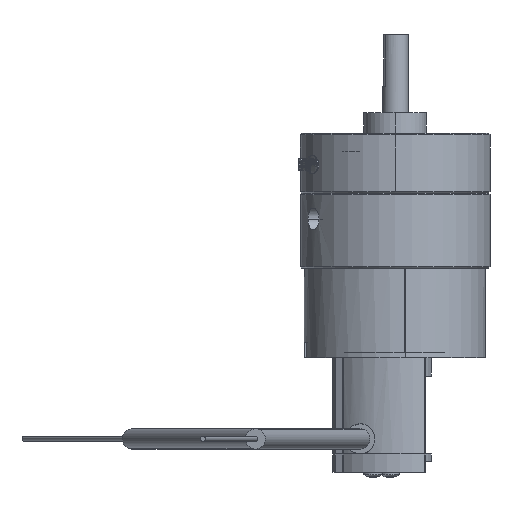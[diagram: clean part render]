
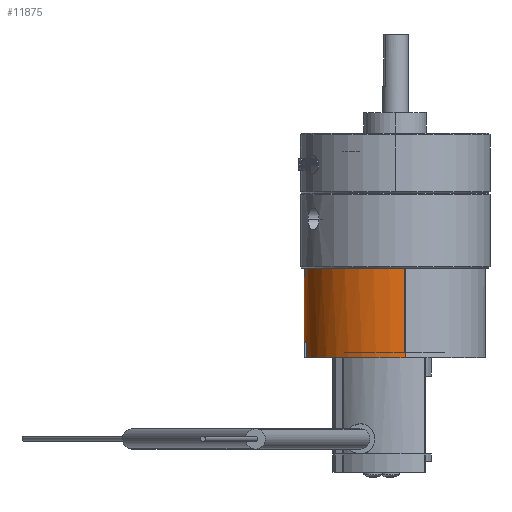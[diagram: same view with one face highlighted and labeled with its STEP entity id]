
A CAD part, left-side view. The second image highlights one B-rep face of the part: STEP entity #11875.
In plain terms, the highlighted cylindrical face has radius 17.5 mm (diameter 35 mm), a partial arc.
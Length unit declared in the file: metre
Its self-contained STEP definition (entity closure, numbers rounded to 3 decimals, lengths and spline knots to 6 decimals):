
#42 = DIRECTION ( 'NONE',  ( 0., 0., -1. ) ) ;
#389 = VECTOR ( 'NONE', #42, 1. ) ;
#561 = ORIENTED_EDGE ( 'NONE', *, *, #14050, .F. ) ;
#1194 = AXIS2_PLACEMENT_3D ( 'NONE', #2973, #13662, #4566 ) ;
#1430 = CARTESIAN_POINT ( 'NONE',  ( 0.0175, 0., 0. ) ) ;
#2760 = CARTESIAN_POINT ( 'NONE',  ( 0., 0., 0.0172 ) ) ;
#2821 = VERTEX_POINT ( 'NONE', #16098 ) ;
#2848 = VERTEX_POINT ( 'NONE', #15938 ) ;
#2973 = CARTESIAN_POINT ( 'NONE',  ( 0., 0., 0.0142 ) ) ;
#3383 = VERTEX_POINT ( 'NONE', #14289 ) ;
#4306 = CIRCLE ( 'NONE', #6803, 0.0175 ) ;
#4348 = CYLINDRICAL_SURFACE ( 'NONE', #16232, 0.0175 ) ;
#4360 = DIRECTION ( 'NONE',  ( -1., 0., 0. ) ) ;
#4549 = LINE ( 'NONE', #17876, #389 ) ;
#4566 = DIRECTION ( 'NONE',  ( -1., 0., 0. ) ) ;
#5862 = DIRECTION ( 'NONE',  ( 0., 0., -1. ) ) ;
#5953 = CARTESIAN_POINT ( 'NONE',  ( 0.0175, 0., 0.0172 ) ) ;
#6803 = AXIS2_PLACEMENT_3D ( 'NONE', #9830, #9615, #9532 ) ;
#6979 = LINE ( 'NONE', #16160, #18043 ) ;
#8244 = VERTEX_POINT ( 'NONE', #5953 ) ;
#9296 = VERTEX_POINT ( 'NONE', #18588 ) ;
#9532 = DIRECTION ( 'NONE',  ( -1., 0., 0. ) ) ;
#9615 = DIRECTION ( 'NONE',  ( 0., 0., 1. ) ) ;
#9830 = CARTESIAN_POINT ( 'NONE',  ( 0., 0., 0.0172 ) ) ;
#9945 = ORIENTED_EDGE ( 'NONE', *, *, #13895, .F. ) ;
#9962 = AXIS2_PLACEMENT_3D ( 'NONE', #17387, #16906, #15821 ) ;
#10334 = ORIENTED_EDGE ( 'NONE', *, *, #13801, .T. ) ;
#10733 = ORIENTED_EDGE ( 'NONE', *, *, #13899, .F. ) ;
#10734 = CARTESIAN_POINT ( 'NONE',  ( 0.0175, 0., 0.0172 ) ) ;
#10848 = DIRECTION ( 'NONE',  ( 0., 0., -1. ) ) ;
#10959 = DIRECTION ( 'NONE',  ( -1., 0., 0. ) ) ;
#11004 = ORIENTED_EDGE ( 'NONE', *, *, #13702, .F. ) ;
#11041 = CARTESIAN_POINT ( 'NONE',  ( 0., 0., 0.0172 ) ) ;
#11124 = CIRCLE ( 'NONE', #13859, 0.0175 ) ;
#11387 = DIRECTION ( 'NONE',  ( 0., 0., -1. ) ) ;
#11582 = VECTOR ( 'NONE', #11387, 1. ) ;
#11875 = ADVANCED_FACE ( 'NONE', ( #13421 ), #4348, .T. ) ;
#12277 = VERTEX_POINT ( 'NONE', #1430 ) ;
#13137 = CIRCLE ( 'NONE', #1194, 0.0175 ) ;
#13421 = FACE_OUTER_BOUND ( 'NONE', #16402, .T. ) ;
#13497 = DIRECTION ( 'NONE',  ( 0., 0., 1. ) ) ;
#13563 = VERTEX_POINT ( 'NONE', #19003 ) ;
#13587 = VECTOR ( 'NONE', #16278, 1. ) ;
#13662 = DIRECTION ( 'NONE',  ( 0., 0., 1. ) ) ;
#13702 = EDGE_CURVE ( 'NONE', #8244, #13563, #4306, .T. ) ;
#13801 = EDGE_CURVE ( 'NONE', #8244, #12277, #15286, .T. ) ;
#13859 = AXIS2_PLACEMENT_3D ( 'NONE', #2760, #13497, #4360 ) ;
#13862 = EDGE_CURVE ( 'NONE', #12277, #9296, #18489, .T. ) ;
#13895 = EDGE_CURVE ( 'NONE', #15800, #9296, #6979, .T. ) ;
#13899 = EDGE_CURVE ( 'NONE', #2821, #15800, #11124, .T. ) ;
#13969 = EDGE_CURVE ( 'NONE', #2848, #2821, #17195, .T. ) ;
#14050 = EDGE_CURVE ( 'NONE', #3383, #2848, #13137, .T. ) ;
#14124 = EDGE_CURVE ( 'NONE', #13563, #3383, #4549, .T. ) ;
#14289 = CARTESIAN_POINT ( 'NONE',  ( 0.0019, 0.017397, 0.0142 ) ) ;
#14416 = ORIENTED_EDGE ( 'NONE', *, *, #13862, .T. ) ;
#14889 = ORIENTED_EDGE ( 'NONE', *, *, #13969, .F. ) ;
#15286 = LINE ( 'NONE', #10734, #11582 ) ;
#15800 = VERTEX_POINT ( 'NONE', #18115 ) ;
#15821 = DIRECTION ( 'NONE',  ( -1., 0., 0. ) ) ;
#15938 = CARTESIAN_POINT ( 'NONE',  ( -0.0019, 0.017397, 0.0142 ) ) ;
#16098 = CARTESIAN_POINT ( 'NONE',  ( -0.0019, 0.017397, 0.0172 ) ) ;
#16160 = CARTESIAN_POINT ( 'NONE',  ( -0.0175, 0., 0.0172 ) ) ;
#16229 = CARTESIAN_POINT ( 'NONE',  ( -0.0019, 0.017397, 0.0086 ) ) ;
#16232 = AXIS2_PLACEMENT_3D ( 'NONE', #11041, #10848, #10959 ) ;
#16278 = DIRECTION ( 'NONE',  ( 0., 0., 1. ) ) ;
#16402 = EDGE_LOOP ( 'NONE', ( #11004, #10334, #14416, #9945, #10733, #14889, #561, #18644 ) ) ;
#16906 = DIRECTION ( 'NONE',  ( 0., 0., 1. ) ) ;
#17195 = LINE ( 'NONE', #16229, #13587 ) ;
#17387 = CARTESIAN_POINT ( 'NONE',  ( 0., 0., 0. ) ) ;
#17876 = CARTESIAN_POINT ( 'NONE',  ( 0.0019, 0.017397, 0.0086 ) ) ;
#18043 = VECTOR ( 'NONE', #5862, 1. ) ;
#18115 = CARTESIAN_POINT ( 'NONE',  ( -0.0175, 0., 0.0172 ) ) ;
#18489 = CIRCLE ( 'NONE', #9962, 0.0175 ) ;
#18588 = CARTESIAN_POINT ( 'NONE',  ( -0.0175, 0., 0. ) ) ;
#18644 = ORIENTED_EDGE ( 'NONE', *, *, #14124, .F. ) ;
#19003 = CARTESIAN_POINT ( 'NONE',  ( 0.0019, 0.017397, 0.0172 ) ) ;
